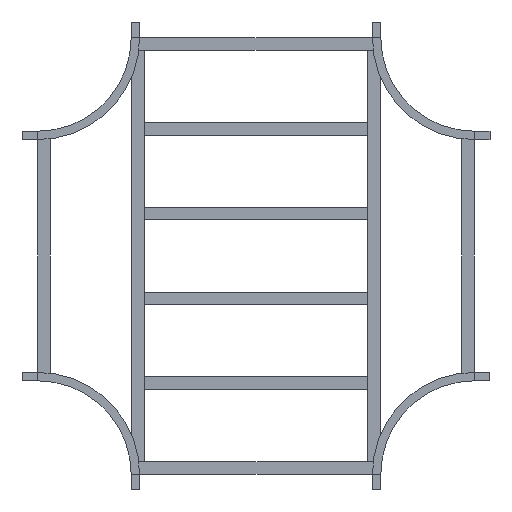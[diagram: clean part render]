
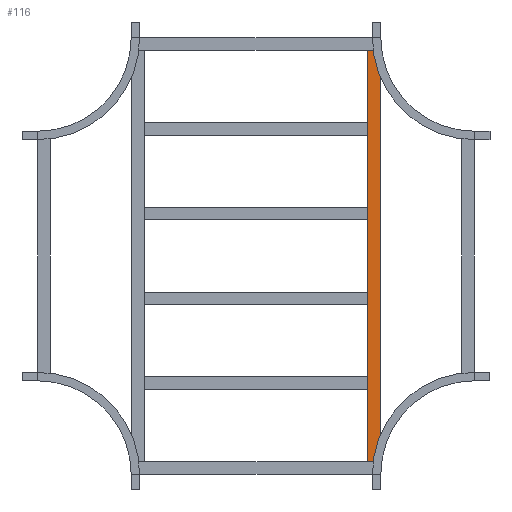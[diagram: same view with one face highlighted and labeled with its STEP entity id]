
A CAD part, front view. The second image highlights one B-rep face of the part: STEP entity #116.
In plain terms, the highlighted planar face has unit normal (0, -1, 0).
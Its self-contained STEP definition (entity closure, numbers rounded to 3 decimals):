
#38 = PLANE ( 'NONE',  #297 ) ;
#63 = CARTESIAN_POINT ( 'NONE',  ( 659.5, 0., 20.25 ) ) ;
#78 = LINE ( 'NONE', #63, #918 ) ;
#116 = ADVANCED_FACE ( 'NONE', ( #580 ), #38, .F. ) ;
#165 = VERTEX_POINT ( 'NONE', #1396 ) ;
#176 = LINE ( 'NONE', #260, #376 ) ;
#208 = ORIENTED_EDGE ( 'NONE', *, *, #1406, .F. ) ;
#260 = CARTESIAN_POINT ( 'NONE',  ( 659.5, 0., -20.25 ) ) ;
#283 = DIRECTION ( 'NONE',  ( -1., 0., 0. ) ) ;
#297 = AXIS2_PLACEMENT_3D ( 'NONE', #317, #604, #821 ) ;
#317 = CARTESIAN_POINT ( 'NONE',  ( 659.5, 0., 20.25 ) ) ;
#331 = VERTEX_POINT ( 'NONE', #414 ) ;
#376 = VECTOR ( 'NONE', #283, 1000. ) ;
#414 = CARTESIAN_POINT ( 'NONE',  ( -659.5, 0., 20.25 ) ) ;
#510 = DIRECTION ( 'NONE',  ( -1., 0., 0. ) ) ;
#534 = EDGE_CURVE ( 'NONE', #331, #1116, #1235, .T. ) ;
#539 = DIRECTION ( 'NONE',  ( 0., 0., -1. ) ) ;
#580 = FACE_OUTER_BOUND ( 'NONE', #958, .T. ) ;
#604 = DIRECTION ( 'NONE',  ( 0., 1., 0. ) ) ;
#678 = DIRECTION ( 'NONE',  ( 0., 0., -1. ) ) ;
#708 = CARTESIAN_POINT ( 'NONE',  ( -659.5, 0., 20.25 ) ) ;
#785 = LINE ( 'NONE', #1214, #1288 ) ;
#788 = ORIENTED_EDGE ( 'NONE', *, *, #1139, .F. ) ;
#821 = DIRECTION ( 'NONE',  ( 0., 0., 1. ) ) ;
#844 = CARTESIAN_POINT ( 'NONE',  ( 659.5, 0., -20.25 ) ) ;
#918 = VECTOR ( 'NONE', #510, 1000. ) ;
#936 = ORIENTED_EDGE ( 'NONE', *, *, #1013, .T. ) ;
#958 = EDGE_LOOP ( 'NONE', ( #1134, #788, #208, #936 ) ) ;
#1013 = EDGE_CURVE ( 'NONE', #165, #331, #78, .T. ) ;
#1048 = CARTESIAN_POINT ( 'NONE',  ( -659.5, 0., -20.25 ) ) ;
#1116 = VERTEX_POINT ( 'NONE', #1048 ) ;
#1134 = ORIENTED_EDGE ( 'NONE', *, *, #534, .T. ) ;
#1139 = EDGE_CURVE ( 'NONE', #1301, #1116, #176, .T. ) ;
#1214 = CARTESIAN_POINT ( 'NONE',  ( 659.5, 0., 20.25 ) ) ;
#1215 = VECTOR ( 'NONE', #539, 1000. ) ;
#1235 = LINE ( 'NONE', #708, #1215 ) ;
#1288 = VECTOR ( 'NONE', #678, 1000. ) ;
#1301 = VERTEX_POINT ( 'NONE', #844 ) ;
#1396 = CARTESIAN_POINT ( 'NONE',  ( 659.5, 0., 20.25 ) ) ;
#1406 = EDGE_CURVE ( 'NONE', #165, #1301, #785, .T. ) ;
